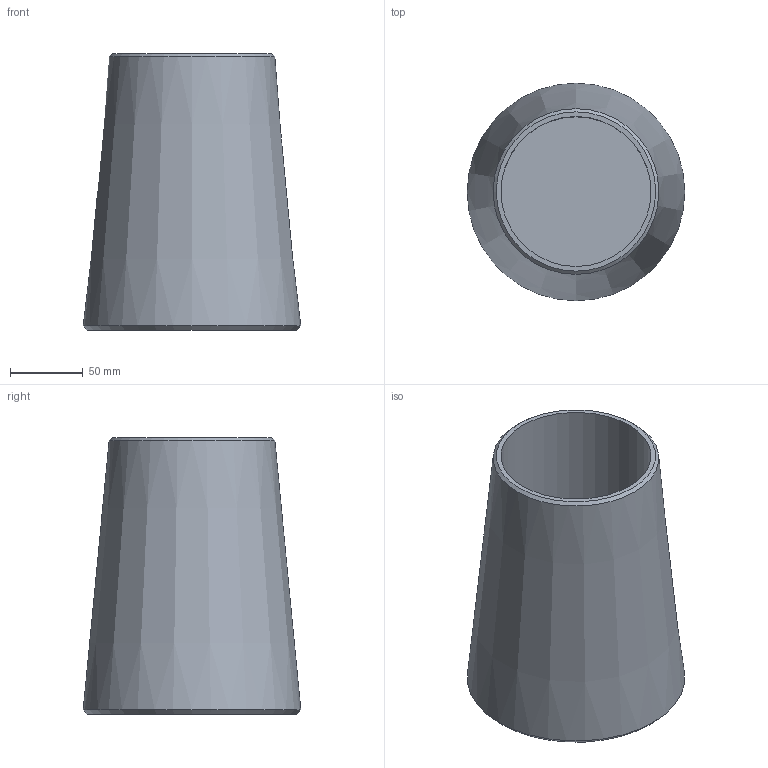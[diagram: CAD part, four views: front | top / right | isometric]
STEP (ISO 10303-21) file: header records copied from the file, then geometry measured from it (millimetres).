
FILE_DESCRIPTION(/* description */ (''),/* implementation_level */ '2;1');
FILE_NAME(/* name */ 'C:\Vault_WS\Designs\SB\01-PX\Verzinkt\ZSS\520 - Kontermutter\520-100-KMU.stp',/* time_stamp */ '2020-06-18T12:38:12+02:00',/* author */ ('schwarz'),/* organization */ (''),/* preprocessor_version */ 'ST-DEVELOPER v16.1',/* originating_system */ 'Autodesk Inventor 2016',/* authorisation */ '');
FILE_SCHEMA (('AUTOMOTIVE_DESIGN { 1 0 10303 214 3 1 1 }'));
Length unit declared in the file: millimetre
Products named in the file (1): Kontermutter 520 100 Kunde
Bounding box: 149.42 x 149.42 x 190 mm (x, y, z)
Volume: 1435848.8 mm3; surface area: 150740.9 mm2
Topology: 1 solids, 1 shells, 7 faces, 10 edges, 6 vertices
Faces by surface type: cone 3, plane 3, cylinder 1
Full cylindrical faces by diameter (mm): 103 x1
Entity records: 158 total; most frequent: DIRECTION 28, CARTESIAN_POINT 20, AXIS2_PLACEMENT_3D 14, EDGE_LOOP 12, ORIENTED_EDGE 12, FACE_OUTER_BOUND 7, ADVANCED_FACE 7, CIRCLE 6
